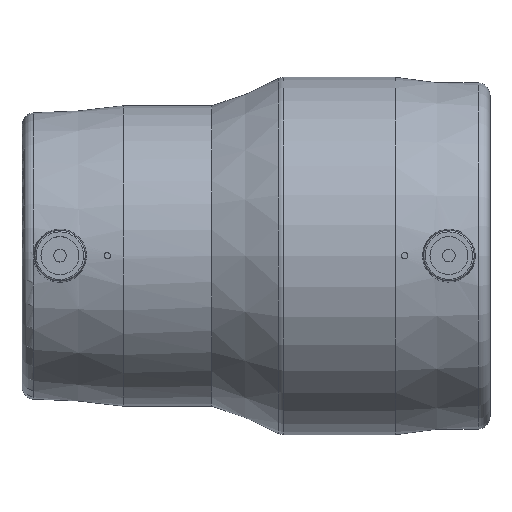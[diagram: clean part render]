
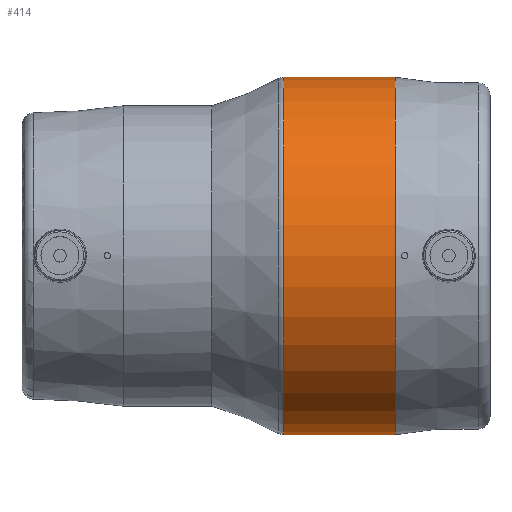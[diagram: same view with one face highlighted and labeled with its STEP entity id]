
A CAD part, top view. The second image highlights one B-rep face of the part: STEP entity #414.
In plain terms, the highlighted cylindrical face has radius 56.5 mm (diameter 113 mm), a full revolution.
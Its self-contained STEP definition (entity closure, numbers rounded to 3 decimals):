
#61=CYLINDRICAL_SURFACE('',#468,56.5);
#70=CIRCLE('',#462,56.5);
#75=CIRCLE('',#469,56.5);
#108=ORIENTED_EDGE('',*,*,#196,.T.);
#109=ORIENTED_EDGE('',*,*,#188,.T.);
#188=EDGE_CURVE('',#232,#232,#70,.T.);
#196=EDGE_CURVE('',#240,#240,#75,.T.);
#232=VERTEX_POINT('',#683);
#240=VERTEX_POINT('',#719);
#280=EDGE_LOOP('',(#108));
#281=EDGE_LOOP('',(#109));
#346=FACE_BOUND('',#280,.T.);
#347=FACE_BOUND('',#281,.T.);
#414=ADVANCED_FACE('',(#346,#347),#61,.T.);
#462=AXIS2_PLACEMENT_3D('',#682,#530,#531);
#468=AXIS2_PLACEMENT_3D('',#717,#544,#545);
#469=AXIS2_PLACEMENT_3D('',#718,#546,#547);
#530=DIRECTION('',(-1.,0.,0.));
#531=DIRECTION('',(0.,0.,1.));
#544=DIRECTION('',(-1.,0.,0.));
#545=DIRECTION('',(0.,0.,1.));
#546=DIRECTION('',(1.,0.,0.));
#547=DIRECTION('',(0.,0.,-1.));
#682=CARTESIAN_POINT('',(47.,0.,0.));
#683=CARTESIAN_POINT('',(47.,0.,56.5));
#717=CARTESIAN_POINT('',(-60.,0.,0.));
#718=CARTESIAN_POINT('',(11.787,0.,0.));
#719=CARTESIAN_POINT('',(11.787,0.,-56.5));
